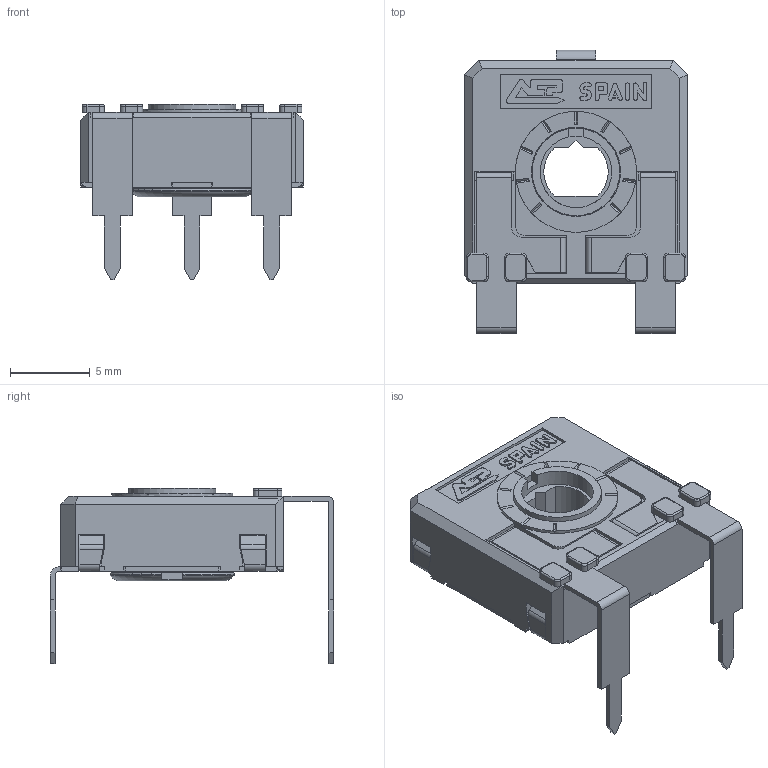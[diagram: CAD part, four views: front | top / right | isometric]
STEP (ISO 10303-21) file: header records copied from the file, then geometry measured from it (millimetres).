
FILE_DESCRIPTION(/* description */ (''),/* implementation_level */ '2;1');
FILE_NAME(/* name */ '\\SERVERACP\intercambio\Ignacio Santa Cecilia\Nueva WEB 2025\CA14 - CE14\CA14KV17,5.stp',/* time_stamp */ '2025-06-06T10:46:13+02:00',/* author */ ('CEM'),/* organization */ (''),/* preprocessor_version */ 'ST-DEVELOPER v17',/* originating_system */ 'Autodesk Inventor 2018',/* authorisation */ '');
FILE_SCHEMA (('AUTOMOTIVE_DESIGN { 1 0 10303 214 3 1 1 }'));
Length unit declared in the file: millimetre
Products named in the file (1): CARCASA CA14 PGA
Bounding box: 14 x 17.8 x 11 mm (x, y, z)
Volume: 539.5 mm3; surface area: 1518.4 mm2
Topology: 1 solids, 1 shells, 673 faces, 1903 edges, 1226 vertices
Faces by surface type: plane 499, cylinder 137, torus 23, bspline 8, cone 6
Full cylindrical faces by diameter (mm): 4.5 x1, 5.5 x1, 5.6 x1, 5.752 x1, 6.8 x1, 7.6 x1
Entity records: 21999 total; most frequent: CARTESIAN_POINT 4100, ORIENTED_EDGE 3806, DIRECTION 3550, EDGE_CURVE 1903, LINE 1498, VECTOR 1498, VERTEX_POINT 1226, AXIS2_PLACEMENT_3D 1026
